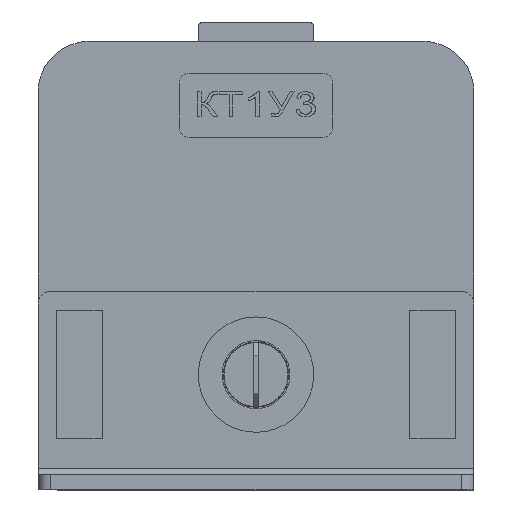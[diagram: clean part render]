
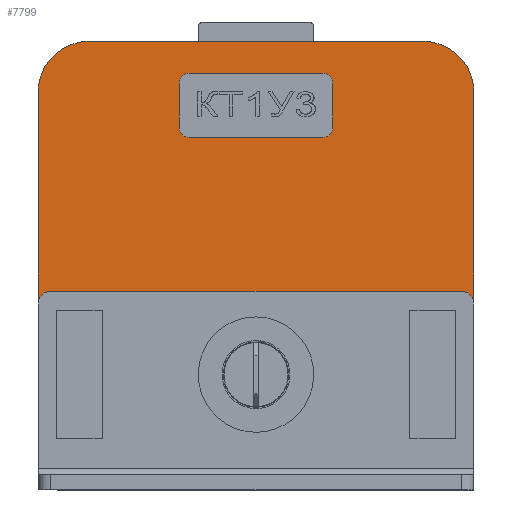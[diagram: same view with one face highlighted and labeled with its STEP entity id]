
A CAD part, left-side view. The second image highlights one B-rep face of the part: STEP entity #7799.
In plain terms, the highlighted planar face has unit normal (-1, 0, 0).
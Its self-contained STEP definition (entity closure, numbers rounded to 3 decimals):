
#7799=ADVANCED_FACE('',(#83318,#83320),#83322,.T.);
#83318=FACE_BOUND('',#83319,.T.);
#83319=EDGE_LOOP('',(#145969,#145970,#145971,#145972,#145973,#145974,#145975,#145976));
#83320=FACE_BOUND('',#83321,.T.);
#83321=EDGE_LOOP('',(#145977,#145978,#145979,#145980,#145981,#145982,#145983,#145984));
#83322=PLANE('',#83323);
#83323=AXIS2_PLACEMENT_3D('',#83324,#83325,#83326);
#83324=CARTESIAN_POINT('',(-70.5,0.,0.));
#83325=DIRECTION('',(-1.,0.,0.));
#83326=DIRECTION('',(0.,-1.,0.));
#145969=ORIENTED_EDGE('',*,*,#192258,.F.);
#145970=ORIENTED_EDGE('',*,*,#190368,.T.);
#145971=ORIENTED_EDGE('',*,*,#192257,.T.);
#145972=ORIENTED_EDGE('',*,*,#192259,.T.);
#145973=ORIENTED_EDGE('',*,*,#192260,.T.);
#145974=ORIENTED_EDGE('',*,*,#190485,.T.);
#145975=ORIENTED_EDGE('',*,*,#192261,.F.);
#145976=ORIENTED_EDGE('',*,*,#192262,.F.);
#145977=ORIENTED_EDGE('',*,*,#192263,.T.);
#145978=ORIENTED_EDGE('',*,*,#192264,.T.);
#145979=ORIENTED_EDGE('',*,*,#192265,.T.);
#145980=ORIENTED_EDGE('',*,*,#192266,.T.);
#145981=ORIENTED_EDGE('',*,*,#192267,.T.);
#145982=ORIENTED_EDGE('',*,*,#192268,.T.);
#145983=ORIENTED_EDGE('',*,*,#192269,.T.);
#145984=ORIENTED_EDGE('',*,*,#192270,.T.);
#190368=EDGE_CURVE('',#215238,#215236,#215239,.T.);
#190485=EDGE_CURVE('',#215464,#215462,#215465,.T.);
#192257=EDGE_CURVE('',#215236,#218210,#218212,.T.);
#192258=EDGE_CURVE('',#215238,#218213,#218214,.F.);
#192259=EDGE_CURVE('',#218210,#218215,#218216,.T.);
#192260=EDGE_CURVE('',#218215,#215464,#218217,.T.);
#192261=EDGE_CURVE('',#218218,#215462,#218219,.F.);
#192262=EDGE_CURVE('',#218213,#218218,#218220,.T.);
#192263=EDGE_CURVE('',#218221,#218222,#218223,.F.);
#192264=EDGE_CURVE('',#218222,#218224,#218225,.F.);
#192265=EDGE_CURVE('',#218224,#218226,#218227,.F.);
#192266=EDGE_CURVE('',#218226,#218228,#218229,.F.);
#192267=EDGE_CURVE('',#218228,#218230,#218231,.F.);
#192268=EDGE_CURVE('',#218230,#218232,#218233,.F.);
#192269=EDGE_CURVE('',#218232,#218234,#218235,.F.);
#192270=EDGE_CURVE('',#218234,#218221,#218236,.F.);
#215236=VERTEX_POINT('',#257447);
#215238=VERTEX_POINT('',#257451);
#215239=LINE('',#257452,#257453);
#215462=VERTEX_POINT('',#257924);
#215464=VERTEX_POINT('',#257928);
#215465=LINE('',#257929,#257930);
#218210=VERTEX_POINT('',#264786);
#218212=CIRCLE('',#264790,4.);
#218213=VERTEX_POINT('',#264794);
#218214=CIRCLE('',#264795,1.);
#218215=VERTEX_POINT('',#264799);
#218216=LINE('',#264800,#264801);
#218217=CIRCLE('',#264803,4.);
#218218=VERTEX_POINT('',#264807);
#218219=CIRCLE('',#264808,1.);
#218220=LINE('',#264812,#264813);
#218221=VERTEX_POINT('',#264815);
#218222=VERTEX_POINT('',#264816);
#218223=CIRCLE('',#264817,0.8);
#218224=VERTEX_POINT('',#264821);
#218225=LINE('',#264822,#264823);
#218226=VERTEX_POINT('',#264825);
#218227=CIRCLE('',#264826,0.8);
#218228=VERTEX_POINT('',#264830);
#218229=LINE('',#264831,#264832);
#218230=VERTEX_POINT('',#264834);
#218231=CIRCLE('',#264835,0.8);
#218232=VERTEX_POINT('',#264839);
#218233=LINE('',#264840,#264841);
#218234=VERTEX_POINT('',#264843);
#218235=CIRCLE('',#264844,0.8);
#218236=LINE('',#264848,#264849);
#257447=CARTESIAN_POINT('',(-70.5,-34.,31.));
#257451=CARTESIAN_POINT('',(-70.5,-34.,14.5));
#257452=CARTESIAN_POINT('',(-70.5,-34.,14.5));
#257453=VECTOR('',#257454,1.);
#257454=DIRECTION('',(0.,0.,1.));
#257924=CARTESIAN_POINT('',(-70.5,0.,14.5));
#257928=CARTESIAN_POINT('',(-70.5,0.,31.));
#257929=CARTESIAN_POINT('',(-70.5,0.,31.));
#257930=VECTOR('',#257931,1.);
#257931=DIRECTION('',(0.,0.,-1.));
#264786=CARTESIAN_POINT('',(-70.5,-30.,35.));
#264790=AXIS2_PLACEMENT_3D('',#264791,#264792,#264793);
#264791=CARTESIAN_POINT('',(-70.5,-30.,31.));
#264792=DIRECTION('',(-1.,0.,0.));
#264793=DIRECTION('',(0.,-1.,0.));
#264794=CARTESIAN_POINT('',(-70.5,-33.,15.5));
#264795=AXIS2_PLACEMENT_3D('',#264796,#264797,#264798);
#264796=CARTESIAN_POINT('',(-70.5,-33.,14.5));
#264797=DIRECTION('',(1.,0.,0.));
#264798=DIRECTION('',(0.,0.,1.));
#264799=CARTESIAN_POINT('',(-70.5,-4.,35.));
#264800=CARTESIAN_POINT('',(-70.5,-30.,35.));
#264801=VECTOR('',#264802,1.);
#264802=DIRECTION('',(0.,1.,0.));
#264803=AXIS2_PLACEMENT_3D('',#264804,#264805,#264806);
#264804=CARTESIAN_POINT('',(-70.5,-4.,31.));
#264805=DIRECTION('',(-1.,0.,0.));
#264806=DIRECTION('',(0.,0.,1.));
#264807=CARTESIAN_POINT('',(-70.5,-1.,15.5));
#264808=AXIS2_PLACEMENT_3D('',#264809,#264810,#264811);
#264809=CARTESIAN_POINT('',(-70.5,-1.,14.5));
#264810=DIRECTION('',(1.,0.,0.));
#264811=DIRECTION('',(0.,1.,0.));
#264812=CARTESIAN_POINT('',(-70.5,-33.,15.5));
#264813=VECTOR('',#264814,1.);
#264814=DIRECTION('',(0.,1.,0.));
#264815=CARTESIAN_POINT('',(-70.5,-11.8,27.5));
#264816=CARTESIAN_POINT('',(-70.5,-11.,28.3));
#264817=AXIS2_PLACEMENT_3D('',#264818,#264819,#264820);
#264818=CARTESIAN_POINT('',(-70.5,-11.8,28.3));
#264819=DIRECTION('',(-1.,0.,0.));
#264820=DIRECTION('',(0.,1.,0.));
#264821=CARTESIAN_POINT('',(-70.5,-11.,31.7));
#264822=CARTESIAN_POINT('',(-70.5,-11.,31.7));
#264823=VECTOR('',#264824,1.);
#264824=DIRECTION('',(0.,0.,-1.));
#264825=CARTESIAN_POINT('',(-70.5,-11.8,32.5));
#264826=AXIS2_PLACEMENT_3D('',#264827,#264828,#264829);
#264827=CARTESIAN_POINT('',(-70.5,-11.8,31.7));
#264828=DIRECTION('',(-1.,0.,0.));
#264829=DIRECTION('',(0.,0.,1.));
#264830=CARTESIAN_POINT('',(-70.5,-22.2,32.5));
#264831=CARTESIAN_POINT('',(-70.5,-22.2,32.5));
#264832=VECTOR('',#264833,1.);
#264833=DIRECTION('',(0.,1.,0.));
#264834=CARTESIAN_POINT('',(-70.5,-23.,31.7));
#264835=AXIS2_PLACEMENT_3D('',#264836,#264837,#264838);
#264836=CARTESIAN_POINT('',(-70.5,-22.2,31.7));
#264837=DIRECTION('',(-1.,0.,0.));
#264838=DIRECTION('',(0.,-1.,0.));
#264839=CARTESIAN_POINT('',(-70.5,-23.,28.3));
#264840=CARTESIAN_POINT('',(-70.5,-23.,28.3));
#264841=VECTOR('',#264842,1.);
#264842=DIRECTION('',(0.,0.,1.));
#264843=CARTESIAN_POINT('',(-70.5,-22.2,27.5));
#264844=AXIS2_PLACEMENT_3D('',#264845,#264846,#264847);
#264845=CARTESIAN_POINT('',(-70.5,-22.2,28.3));
#264846=DIRECTION('',(-1.,0.,0.));
#264847=DIRECTION('',(0.,0.,-1.));
#264848=CARTESIAN_POINT('',(-70.5,-11.8,27.5));
#264849=VECTOR('',#264850,1.);
#264850=DIRECTION('',(0.,-1.,0.));
